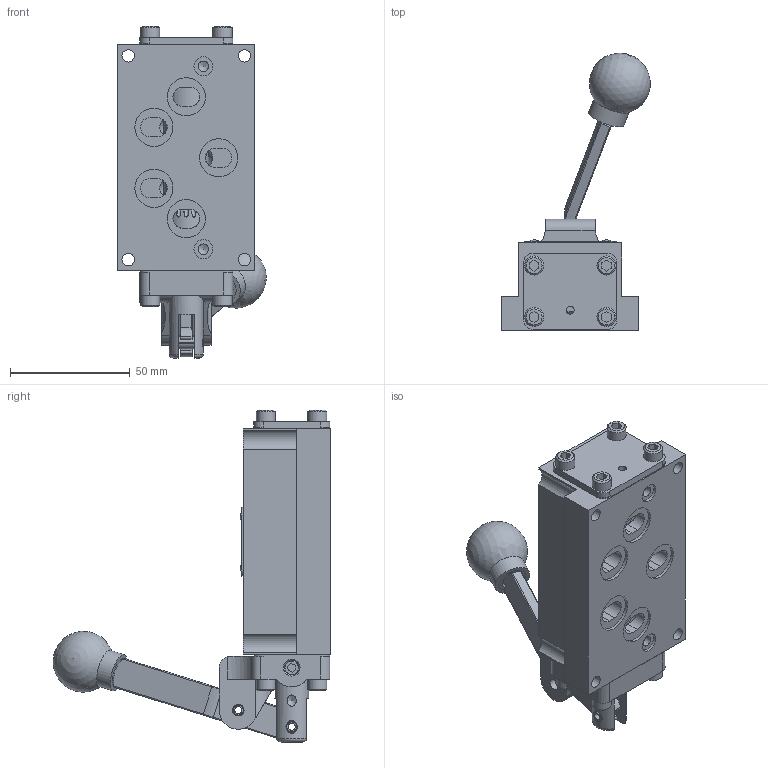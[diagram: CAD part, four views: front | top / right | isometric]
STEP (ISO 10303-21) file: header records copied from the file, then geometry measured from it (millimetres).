
FILE_DESCRIPTION(/* description */ (''),/* implementation_level */ '2;1');
FILE_NAME(/* name */ 'D:\Engineering\Product\valves\Assembly\lever\HD\stp\HD3PBLQ.stp',/* time_stamp */ '2022-12-19T11:47:59-05:00',/* author */ ('RMcKenna'),/* organization */ (''),/* preprocessor_version */ 'ST-DEVELOPER v18.1',/* originating_system */ 'Autodesk Inventor 2021',/* authorisation */ '');
FILE_SCHEMA (('AUTOMOTIVE_DESIGN { 1 0 10303 214 3 1 1 }'));
Length unit declared in the file: centimetre
Products named in the file (1): Part13
Bounding box: 61.91 x 115.78 x 138.33 mm (x, y, z)
Volume: 181880.9 mm3; surface area: 60076.5 mm2
Topology: 1 solids, 31 shells, 998 faces, 2406 edges, 1532 vertices
Faces by surface type: plane 402, cone 237, cylinder 225, torus 93, bspline 36, sphere 5
Full cylindrical faces by diameter (mm): 2.07 x2, 2.261 x2, 2.778 x2, 3.175 x3, 3.683 x8, 3.861 x2, 4.366 x2, 4.369 x3, 4.75 x2, 4.763 x2, 4.826 x8, 4.978 x5, 5.055 x1, 5.156 x8, 5.159 x4, 7.798 x1, 7.925 x2, 7.938 x8, 8.153 x1, 9.922 x1, 11.113 x1, 11.303 x2, 14.275 x1, 15.596 x1, 15.748 x1, 15.875 x5, 18.618 x2, 18.745 x12, 19.177 x2, 23.825 x7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
Entity records: 33052 total; most frequent: CARTESIAN_POINT 8741, DIRECTION 4843, ORIENTED_EDGE 4762, EDGE_CURVE 2381, AXIS2_PLACEMENT_3D 1866, VERTEX_POINT 1532, EDGE_LOOP 1149, LINE 1111
